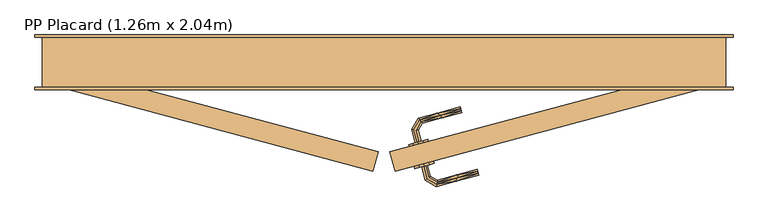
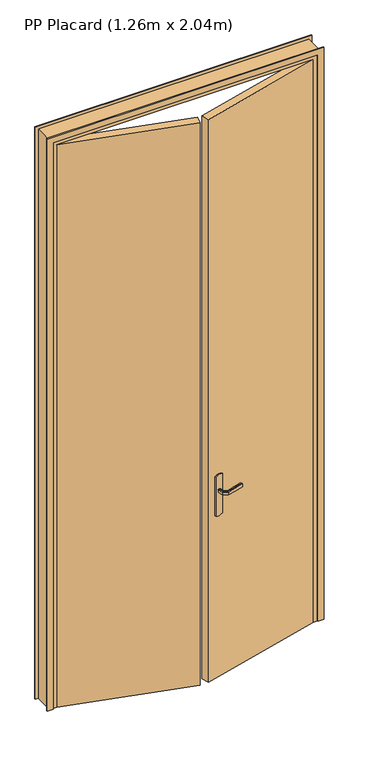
"""IFC4 building model written with IfcOpenShell, lengths in millimetres: door geometry, PP Placard (1.26m x 2.04m)."""

from ifc_helpers import new_model, si_unit, frame, origin, origin_with_axes, place, context, project, spatial, polyline, outline, extrude, faceted_brep, source, transform, mapped, element, save


def pp_placard_1_26m_x_2_04m_3b944beb(model_context):
    return source(origin(), model_context, "Body", "SolidModel", [
        faceted_brep([(764.4415694, -158.0570516, 1007.7804408), (768.354146, -157.0086799, 1007.7804408), (772.1934127, -155.9799515, 1007.0), (772.1934127, -155.9799515, 993.0), (768.354146, -157.0086799, 992.2195592), (764.4415694, -158.0570516, 992.2195592), (760.6023028, -159.08578, 993.0), (760.6023028, -159.08578, 1007.0), (767.7588954, -185.7945474, 1007.0), (771.1720488, -183.1755427, 1007.7804408), (790.827837, -194.5238173, 1007.7804408), (791.4001076, -190.1769909, 1007.7804408), (774.6503756, -180.5065287, 1007.7804408), (778.063529, -177.8875239, 1007.0), (778.063529, -177.8875239, 993.0), (774.6503756, -180.5065287, 992.2195592), (791.4001076, -190.1769909, 992.2195592), (790.827837, -194.5238173, 992.2195592), (771.1720488, -183.1755427, 992.2195592), (767.7588954, -185.7945474, 993.0), (790.2662891, -198.7891972, 1007.0), (791.9616555, -185.911611, 1007.0), (791.9616555, -185.911611, 993.0), (790.2662891, -198.7891972, 993.0), (874.9214104, -176.1059258, 993.0), (873.892682, -172.2666592, 992.2195592), (872.8443102, -168.3540826, 992.2195592), (871.8155818, -164.5148159, 993.0), (871.8155818, -164.5148159, 1007.0), (872.8443102, -168.3540826, 1007.7804408), (873.892682, -172.2666592, 1007.7804408), (874.9214104, -176.1059258, 1007.0), (828.836178, -188.4544266, 1007.0), (832.6463948, -181.221825, 1007.8786868), (831.8886187, -175.2132135, 1007.0), (831.8886187, -175.2132135, 993.0), (832.6463946, -181.2218252, 992.1213132), (828.8361809, -188.4544259, 993.0)], [[[0, 1, 2, 3, 4, 5, 6, 7]], [[8, 9, 0, 7]], [[9, 10, 11, 12, 1, 0]], [[12, 13, 2, 1]], [[3, 2, 13, 14]], [[14, 15, 4, 3]], [[15, 16, 17, 18, 5, 4]], [[18, 19, 6, 5]], [[7, 6, 19, 8]], [[20, 10, 9, 8]], [[11, 21, 13, 12]], [[14, 13, 21, 22]], [[22, 16, 15, 14]], [[17, 23, 19, 18]], [[8, 19, 23, 20]], [[24, 25, 26, 27, 28, 29, 30, 31]], [[32, 30, 33]], [[31, 30, 32]], [[10, 20, 32]], [[33, 34, 11]], [[21, 11, 34]], [[34, 29, 28]], [[30, 29, 33]], [[29, 34, 33]], [[10, 32, 33]], [[10, 33, 11]], [[22, 21, 34, 28, 27, 35]], [[35, 26, 36]], [[37, 36, 25]], [[22, 35, 16]], [[35, 27, 26]], [[24, 37, 25]], [[23, 17, 37]], [[37, 17, 36]], [[17, 16, 36]], [[16, 35, 36]], [[25, 36, 26]], [[20, 23, 37, 24, 31, 32]]]),
        extrude(outline(polyline([(0.0, -15.0), (0.0, 15.0), (3030.0, 15.0), (3030.0, 1355.0), (0.0, 1355.0), (0.0, 1385.0), (3060.0, 1385.0), (3060.0, -15.0), (0.0, -15.0)])), frame((0.0, -5.0, 0.0), z_axis=(0.0, 1.0, 0.0), x_axis=(0.0, 0.0, 1.0)), (0.0, 0.0, 1.0), 5.0),
        faceted_brep([(0.0, 0.0, 0.0), (0.0, 100.0, 0.0), (50.0, 100.0, 0.0), (50.0, 40.0, 0.0), (35.0, 40.0, 0.0), (35.0, 0.0, 0.0), (0.0, 0.0, 3045.0), (0.0, 100.0, 3045.0), (1370.0, 100.0, 3045.0), (1370.0, 100.0, 0.0), (1320.0, 100.0, 0.0), (1320.0, 100.0, 2995.0), (50.0, 100.0, 2995.0), (50.0, 40.0, 2995.0), (1320.0, 40.0, 2995.0), (1320.0, 40.0, 0.0), (1335.0, 40.0, 0.0), (1335.0, 40.0, 3010.0), (35.0, 40.0, 3010.0), (35.0, 0.0, 3010.0), (1335.0, 0.0, 3010.0), (1335.0, 0.0, 0.0), (1370.0, 0.0, 0.0), (1370.0, 0.0, 3045.0)], [[[0, 1, 2, 3, 4, 5]], [[1, 0, 6, 7]], [[2, 1, 7, 8, 9, 10, 11, 12]], [[3, 2, 12, 13]], [[4, 3, 13, 14, 15, 16, 17, 18]], [[5, 4, 18, 19]], [[0, 5, 19, 20, 21, 22, 23, 6]], [[8, 23, 22, 9]], [[22, 21, 16, 15, 10, 9]], [[14, 11, 10, 15]], [[20, 17, 16, 21]], [[7, 6, 23, 8]], [[13, 12, 11, 14]], [[19, 18, 17, 20]]]),
        extrude(outline(polyline([(0.0, 0.0), (3.0658951, 9.9818657), (212.1249722, 29.8389109), (217.015302, 20.6127508), (219.3510918, 10.4352539), (218.9731616, 0.0), (215.9072666, -9.9818657), (6.8481894, -29.8389108), (1.9578596, -20.6127508), (-0.3779302, -10.4352539), (0.0, 0.0)])), frame((776.3978577, -154.8533738, 866.0039831), z_axis=(-0.2588190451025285, 0.9659258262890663, 0.0), x_axis=(-0.09133539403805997, -0.024473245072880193, 0.9955194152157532)), (0.0, 0.0, 1.0), 5.0),
        extrude(outline(polyline([(0.0, 0.0), (3.0658951, 9.9818657), (212.1249723, 29.8389108), (217.015302, 20.6127508), (219.3510918, 10.4352539), (218.9731616, 0.0), (215.9072666, -9.9818657), (6.8481894, -29.8389109), (1.9578596, -20.6127508), (-0.3779302, -10.4352539), (0.0, 0.0)])), frame((764.7510007, -111.3867116, 866.0039831), z_axis=(-0.25881904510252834, 0.9659258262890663, 0.0), x_axis=(-0.09133539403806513, -0.0244732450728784, 0.9955194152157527)), (0.0, 0.0, 1.0), 5.0),
        extrude(outline(polyline([(673.2045489, -129.5953463), (662.8517871, -168.2323793), (35.0, 0.0), (45.3527618, 38.6370331), (673.2045489, -129.5953463)])), origin_with_axes(), (0.0, 0.0, 1.0), 3010.0),
        extrude(outline(polyline([(0.0, -15.0), (0.0, 15.0), (3030.0, 15.0), (3030.0, 1355.0), (0.0, 1355.0), (0.0, 1385.0), (3060.0, 1385.0), (3060.0, -15.0), (0.0, -15.0)])), frame((0.0, 100.0, 0.0), z_axis=(0.0, 1.0, 0.0), x_axis=(0.0, 0.0, 1.0)), (0.0, 0.0, 1.0), 5.0),
        extrude(outline(polyline([(696.7954511, -129.5953463), (1324.6472382, 38.6370331), (1335.0, 0.0), (707.1482129, -168.2323793), (696.7954511, -129.5953463)])), origin_with_axes(), (0.0, 0.0, 1.0), 3010.0),
        faceted_brep([(751.5006172, -109.7607603, 1007.7804408), (747.6613505, -110.7894887, 1007.0), (747.6613505, -110.7894887, 993.0), (751.5006172, -109.7607603, 992.2195592), (755.4131937, -108.7123886, 992.2195592), (759.2524604, -107.6836602, 993.0), (759.2524604, -107.6836602, 1007.0), (755.4131937, -108.7123886, 1007.7804408), (753.4328613, -85.9646204, 993.0), (753.4328613, -85.9646204, 1007.0), (749.1674813, -85.4030725, 1007.7804408), (758.9351769, -68.4849275, 1007.7804408), (756.2661629, -65.0066008, 1007.7804408), (744.820655, -84.8308019, 1007.7804408), (740.555275, -84.269254, 1007.0), (740.555275, -84.269254, 993.0), (744.820655, -84.8308019, 992.2195592), (756.2661629, -65.0066008, 992.2195592), (758.9351769, -68.4849275, 992.2195592), (749.1674813, -85.4030725, 992.2195592), (761.5541816, -71.898081, 993.0), (761.5541816, -71.898081, 1007.0), (753.6471581, -61.5934473, 1007.0), (753.6471581, -61.5934473, 993.0), (841.301503, -50.5298506, 993.0), (840.2727746, -46.6905839, 992.2195592), (839.2244029, -42.7780074, 992.2195592), (838.1956744, -38.9387407, 993.0), (838.1956744, -38.9387407, 1007.0), (839.2244029, -42.7780074, 1007.7804408), (840.2727746, -46.6905839, 1007.7804408), (841.301503, -50.5298506, 1007.0), (801.4278308, -61.2139689, 993.0), (801.4278423, -61.2139658, 1007.0), (799.0797898, -55.6314674, 1007.8786868), (792.2170469, -51.2586768, 1007.0), (792.2170455, -51.2586772, 993.0), (799.0797901, -55.6314675, 992.1213132)], [[[0, 1, 2, 3, 4, 5, 6, 7]], [[6, 5, 8, 9]], [[9, 10, 7, 6]], [[10, 11, 12, 13, 0, 7]], [[13, 14, 1, 0]], [[2, 1, 14, 15]], [[15, 16, 3, 2]], [[16, 17, 18, 19, 4, 3]], [[19, 8, 5, 4]], [[9, 8, 20, 21]], [[21, 11, 10, 9]], [[12, 22, 14, 13]], [[15, 14, 22, 23]], [[23, 17, 16, 15]], [[18, 20, 8, 19]], [[24, 25, 26, 27, 28, 29, 30, 31]], [[21, 20, 32, 24, 31, 33]], [[33, 30, 34]], [[35, 34, 29]], [[21, 33, 11]], [[33, 31, 30]], [[28, 35, 29]], [[22, 12, 35]], [[35, 12, 34]], [[12, 11, 34]], [[11, 33, 34]], [[29, 34, 30]], [[22, 35, 28, 27, 36, 23]], [[36, 26, 37]], [[27, 26, 36]], [[17, 23, 36]], [[37, 32, 18]], [[20, 18, 32]], [[32, 25, 24]], [[26, 25, 37]], [[25, 32, 37]], [[17, 36, 37]], [[17, 37, 18]]]),
    ])


if __name__ == "__main__":
    model = new_model("IFC4")
    model_context = context("Model", 3, world=origin())
    ifc_project = project(units=[si_unit("LENGTHUNIT", "METRE", prefix="MILLI")], contexts=[model_context])
    site = spatial("IfcSite", under=ifc_project)
    building = spatial("IfcBuilding", under=site)
    placement = place(None, origin())
    pp_placard_1_26m_x_2_04m_shape = pp_placard_1_26m_x_2_04m_3b944beb(model_context)
    element("IfcDoor", 1, ObjectType="PP Placard (1.26m x 2.04m)", at=placement, inside=building, context=model_context, shape_type="MappedRepresentation", body=[
        mapped(pp_placard_1_26m_x_2_04m_shape, transform((0.0, 0.0, 0.0), x_axis=(1.0, 0.0, 0.0), y_axis=(0.0, 1.0, 0.0), z_axis=(0.0, 0.0, 1.0))),
    ])
    save(model, "model.ifc")
